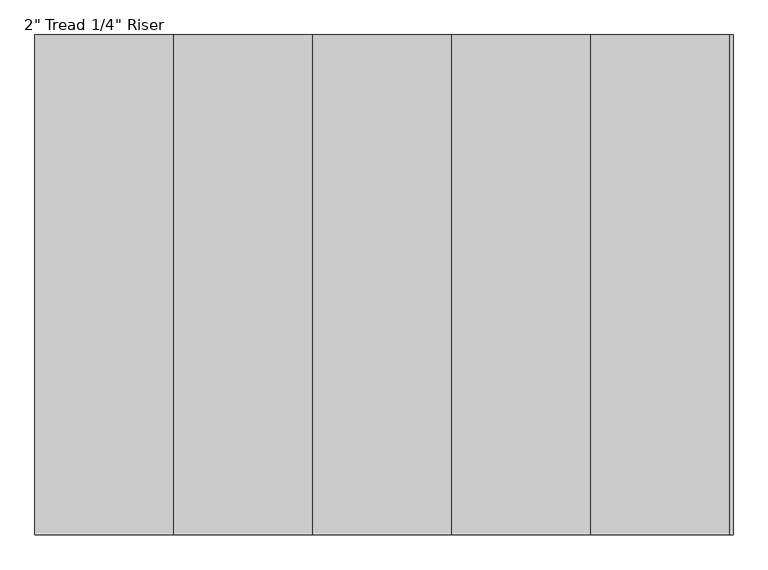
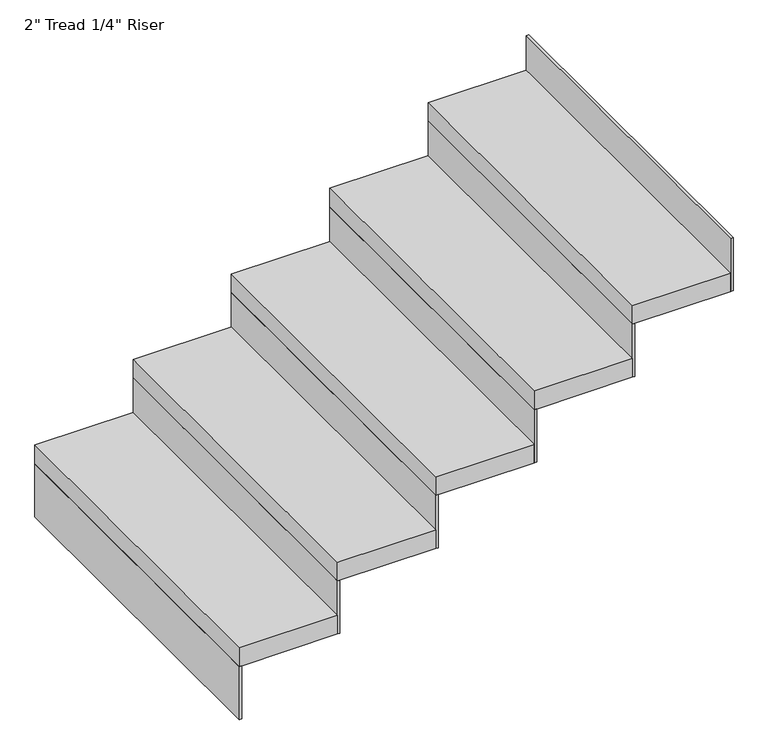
"""IFC4 building model written with IfcOpenShell, lengths in millimetres: stair flight geometry."""

import ifcopenshell
import ifcopenshell.guid

model = None  # the IFC model being written
_history = None  # IfcOwnerHistory: only IFC2X3 demands one
_inside = {}  # id of a spatial element -> (the spatial element, [elements in it])
_under = {}  # id of a project, library or spatial element -> (it, [spatial elements below it])
_declared = {}  # id of a project -> (the project, [libraries it declares])
_typed = {}  # id of a type object -> (the type object, [elements of that type])
_made_of = {}  # id of a material, layer set ... -> (it, [elements and type objects made of it])


def new_model(schema):
    """Start an empty IFC model of exactly this schema.

    Asked for "IFC4X3", IfcOpenShell would pick the latest addendum, in which some entities
    have other attributes; the version numbers below select the first issue.
    IFC2X3 requires an IfcOwnerHistory on every rooted entity: one is made here for all.
    """
    global model, _history
    if schema == "IFC4X3":
        model = ifcopenshell.file(schema_version=(4, 3, 0, 0))
    else:
        model = ifcopenshell.file(schema=schema)
    _inside.clear()
    _under.clear()
    _declared.clear()
    _typed.clear()
    _made_of.clear()
    _history = None
    if model.schema == "IFC2X3":
        org = make("IfcOrganization", Name="unknown")
        user = make(
            "IfcPersonAndOrganization",
            ThePerson=make("IfcPerson", FamilyName="unknown"),
            TheOrganization=org,
        )
        app = make(
            "IfcApplication",
            ApplicationDeveloper=org,
            Version="unknown",
            ApplicationFullName="unknown",
            ApplicationIdentifier="unknown",
        )
        _history = make(
            "IfcOwnerHistory",
            OwningUser=user,
            OwningApplication=app,
            ChangeAction="ADDED",
            CreationDate=0,
        )
    return model


def make(cls, **values):
    """One entity of the class cls with the attributes given. An attribute that is None is left unset."""
    return model.create_entity(
        cls, **{name: value for name, value in values.items() if value is not None}
    )


def rooted(cls, **values):
    """An entity with a GlobalId (a new one), such as an element, a storey or a relation."""
    return make(cls, GlobalId=ifcopenshell.guid.new(), OwnerHistory=_history, **values)


def si_unit(unit_type, name, prefix=None):
    """IfcSIUnit, for example si_unit("LENGTHUNIT", "METRE", prefix="MILLI")."""
    return make("IfcSIUnit", UnitType=unit_type, Prefix=prefix, Name=name)


def assignment(units):
    """IfcUnitAssignment: the units of a project."""
    return None if units is None else make("IfcUnitAssignment", Units=units)


def point(xyz):
    """IfcCartesianPoint."""
    return None if xyz is None else make("IfcCartesianPoint", Coordinates=xyz)


def direction(xyz):
    """IfcDirection."""
    return None if xyz is None else make("IfcDirection", DirectionRatios=xyz)


def frame(location, z_axis=None, x_axis=None):
    """IfcAxis2Placement3D, a coordinate frame: its origin and axes. An axis left out is left unset."""
    return make(
        "IfcAxis2Placement3D",
        Location=point(location),
        Axis=direction(z_axis),
        RefDirection=direction(x_axis),
    )


def origin():
    """The frame at (0, 0, 0) with its axes left unset."""
    return frame((0.0, 0.0, 0.0))


def place(relative_to, where):
    """IfcLocalPlacement: puts the frame where relative to a parent placement (None: the world)."""
    return make(
        "IfcLocalPlacement", PlacementRelTo=relative_to, RelativePlacement=where
    )


def context(
    kind, dimensions, precision=None, world=None, true_north=None, identifier=None
):
    """IfcGeometricRepresentationContext, for example the 3D "Model" context."""
    return make(
        "IfcGeometricRepresentationContext",
        ContextIdentifier=identifier,
        ContextType=kind,
        CoordinateSpaceDimension=dimensions,
        Precision=precision,
        WorldCoordinateSystem=world,
        TrueNorth=true_north,
    )


def project(units=None, contexts=None):
    """IfcProject with its units and contexts."""
    return rooted(
        "IfcProject",
        Name="project",
        RepresentationContexts=contexts,
        UnitsInContext=assignment(units),
    )


def spatial(cls, under=None, at=None, **own):
    """A site, building, storey or space (cls), placed at a placement, below another one or the project."""
    s = rooted(cls, ObjectPlacement=at, **own)
    if under is not None:
        _under.setdefault(under.id(), (under, []))[1].append(s)
    return s


def polyline(points):
    """IfcPolyline through the points."""
    return make("IfcPolyline", Points=[point(p) for p in points])


def outline(outer, holes=None, kind="AREA"):
    """IfcArbitraryClosedProfileDef: a profile drawn as a closed curve; with holes, ...WithVoids."""
    if holes is None:
        return make("IfcArbitraryClosedProfileDef", ProfileType=kind, OuterCurve=outer)
    return make(
        "IfcArbitraryProfileDefWithVoids",
        ProfileType=kind,
        OuterCurve=outer,
        InnerCurves=holes,
    )


def extrude(swept, where, along, depth):
    """IfcExtrudedAreaSolid: the profile swept, set in the frame where, extruded along a direction by depth."""
    return make(
        "IfcExtrudedAreaSolid",
        SweptArea=swept,
        Position=where,
        ExtrudedDirection=direction(along),
        Depth=depth,
    )


def shape(context_of_items, identifier, shape_type, items):
    """IfcShapeRepresentation: the items that make up one representation, for example the "Body"."""
    return make(
        "IfcShapeRepresentation",
        ContextOfItems=context_of_items,
        RepresentationIdentifier=identifier,
        RepresentationType=shape_type,
        Items=items,
    )


def source(mapping_origin, context_of_items, identifier, shape_type, items):
    """IfcRepresentationMap: a shape defined once, which mapped items show again and again."""
    return make(
        "IfcRepresentationMap",
        MappingOrigin=mapping_origin,
        MappedRepresentation=shape(context_of_items, identifier, shape_type, items),
    )


def transform(
    local_origin,
    x_axis=None,
    y_axis=None,
    z_axis=None,
    scale=None,
    scale2=None,
    scale3=None,
    uniform=True,
):
    """IfcCartesianTransformationOperator3D, or its non-uniform kind. x_axis, y_axis, z_axis: its Axis1, 2, 3."""
    if uniform:
        return make(
            "IfcCartesianTransformationOperator3D",
            Axis1=direction(x_axis),
            Axis2=direction(y_axis),
            LocalOrigin=point(local_origin),
            Scale=scale,
            Axis3=direction(z_axis),
        )
    return make(
        "IfcCartesianTransformationOperator3DnonUniform",
        Axis1=direction(x_axis),
        Axis2=direction(y_axis),
        LocalOrigin=point(local_origin),
        Scale=scale,
        Axis3=direction(z_axis),
        Scale2=scale2,
        Scale3=scale3,
    )


def mapped(mapping_source, mapping_target):
    """IfcMappedItem: shows the shape of a source again, moved by a transform."""
    return make(
        "IfcMappedItem", MappingSource=mapping_source, MappingTarget=mapping_target
    )


def made_of(thing, what):
    """Note that an element or type object is made of a material, layer set ...; save() writes the relation."""
    if what is not None:
        _made_of.setdefault(what.id(), (what, []))[1].append(thing)
    return thing


def element(
    cls,
    number,
    at=None,
    inside=None,
    cuts=None,
    type_object=None,
    material=None,
    context=None,
    identifier="Body",
    shape_type=None,
    held_by="IfcProductDefinitionShape",
    body=None,
    shapes=None,
    **own,
):
    """One element of the class cls, such as IfcWall. Its Tag is "e" and its number.

    at: its placement. inside: the storey or other place that contains it. cuts: it is an
    opening in that element (IfcRelVoidsElement). A single representation is given by context,
    identifier, shape_type and body (its items); several are given by shapes. held_by: the class
    of the entity that holds the representations. save() writes the other relations.
    """
    e = rooted(cls, Tag="e%d" % number, ObjectPlacement=at, **own)
    if body is not None:
        shapes = [shape(context, identifier, shape_type, body)]
    if shapes is not None:
        e.Representation = make(held_by, Representations=shapes)
    if inside is not None:
        _inside.setdefault(inside.id(), (inside, []))[1].append(e)
    if cuts is not None:
        rooted(
            "IfcRelVoidsElement", RelatingBuildingElement=cuts, RelatedOpeningElement=e
        )
    if type_object is not None:
        _typed.setdefault(type_object.id(), (type_object, []))[1].append(e)
    return made_of(e, material)


def aggregate(whole, parts):
    """IfcRelAggregates: a whole, such as a stair, and the parts it consists of."""
    return rooted("IfcRelAggregates", RelatingObject=whole, RelatedObjects=parts)


def save(model, path):
    """Write the relations noted so far, then the file.

    IfcRelAggregates (storeys below a building ...), IfcRelContainedInSpatialStructure (elements
    in a storey), IfcRelDefinesByType, IfcRelAssociatesMaterial and IfcRelDeclares: one each for
    every whole, place, type object, material and project.
    """
    for whole, parts in _under.values():
        aggregate(whole, parts)
    for where, things in _inside.values():
        rooted(
            "IfcRelContainedInSpatialStructure",
            RelatedElements=things,
            RelatingStructure=where,
        )
    for kind, things in _typed.values():
        rooted("IfcRelDefinesByType", RelatedObjects=things, RelatingType=kind)
    for what, things in _made_of.values():
        rooted("IfcRelAssociatesMaterial", RelatedObjects=things, RelatingMaterial=what)
    for by, libraries in _declared.values():
        rooted("IfcRelDeclares", RelatingContext=by, RelatedDefinitions=libraries)
    model.write(path)


def stair_flight_d7916bae(model_context):
    return source(origin(), model_context, "Body", "SweptSolid", [
        extrude(outline(polyline([(164309.4120703, 33927.1265585), (164303.0620703, 33927.1265585), (164303.0620703, 34841.5265585), (164309.4120703, 34841.5265585), (164309.4120703, 33927.1265585)])), frame((0.0, 0.0, 2126.3428571), z_axis=(0.0, 0.0, 1.0), x_axis=(1.0, 0.0, 0.0)), (0.0, 0.0, 1.0), 145.1428571),
        extrude(outline(polyline([(164557.0620703, 34841.5265585), (164557.0620703, 33927.1265585), (164303.0620703, 33927.1265585), (164303.0620703, 34841.5265585), (164557.0620703, 34841.5265585)])), frame((0.0, 0.0, 2271.4857143), z_axis=(0.0, 0.0, 1.0), x_axis=(1.0, 0.0, 0.0)), (0.0, 0.0, 1.0), 50.8),
        extrude(outline(polyline([(164563.4120703, 33927.1265585), (164557.0620703, 33927.1265585), (164557.0620703, 34841.5265585), (164563.4120703, 34841.5265585), (164563.4120703, 33927.1265585)])), frame((0.0, 0.0, 2271.4857143), z_axis=(0.0, 0.0, 1.0), x_axis=(1.0, 0.0, 0.0)), (0.0, 0.0, 1.0), 145.1428571),
        extrude(outline(polyline([(164811.0620703, 34841.5265585), (164811.0620703, 33927.1265585), (164557.0620703, 33927.1265585), (164557.0620703, 34841.5265585), (164811.0620703, 34841.5265585)])), frame((0.0, 0.0, 2416.6285714), z_axis=(0.0, 0.0, 1.0), x_axis=(1.0, 0.0, 0.0)), (0.0, 0.0, 1.0), 50.8),
        extrude(outline(polyline([(164817.4120703, 33927.1265585), (164811.0620703, 33927.1265585), (164811.0620703, 34841.5265585), (164817.4120703, 34841.5265585), (164817.4120703, 33927.1265585)])), frame((0.0, 0.0, 2416.6285714), z_axis=(0.0, 0.0, 1.0), x_axis=(1.0, 0.0, 0.0)), (0.0, 0.0, 1.0), 145.1428571),
        extrude(outline(polyline([(165065.0620703, 34841.5265585), (165065.0620703, 33927.1265585), (164811.0620703, 33927.1265585), (164811.0620703, 34841.5265585), (165065.0620703, 34841.5265585)])), frame((0.0, 0.0, 2561.7714286), z_axis=(0.0, 0.0, 1.0), x_axis=(1.0, 0.0, 0.0)), (0.0, 0.0, 1.0), 50.8),
        extrude(outline(polyline([(165071.4120703, 33927.1265585), (165065.0620703, 33927.1265585), (165065.0620703, 34841.5265585), (165071.4120703, 34841.5265585), (165071.4120703, 33927.1265585)])), frame((0.0, 0.0, 2561.7714286), z_axis=(0.0, 0.0, 1.0), x_axis=(1.0, 0.0, 0.0)), (0.0, 0.0, 1.0), 145.1428571),
        extrude(outline(polyline([(165319.0620703, 34841.5265585), (165319.0620703, 33927.1265585), (165065.0620703, 33927.1265585), (165065.0620703, 34841.5265585), (165319.0620703, 34841.5265585)])), frame((0.0, 0.0, 2706.9142857), z_axis=(0.0, 0.0, 1.0), x_axis=(1.0, 0.0, 0.0)), (0.0, 0.0, 1.0), 50.8),
        extrude(outline(polyline([(165325.4120703, 33927.1265585), (165319.0620703, 33927.1265585), (165319.0620703, 34841.5265585), (165325.4120703, 34841.5265585), (165325.4120703, 33927.1265585)])), frame((0.0, 0.0, 2706.9142857), z_axis=(0.0, 0.0, 1.0), x_axis=(1.0, 0.0, 0.0)), (0.0, 0.0, 1.0), 145.1428571),
        extrude(outline(polyline([(165579.4120703, 33927.1265585), (165573.0620703, 33927.1265585), (165573.0620703, 34841.5265585), (165579.4120703, 34841.5265585), (165579.4120703, 33927.1265585)])), frame((0.0, 0.0, 2852.0571429), z_axis=(0.0, 0.0, 1.0), x_axis=(1.0, 0.0, 0.0)), (0.0, 0.0, 1.0), 145.1428571),
        extrude(outline(polyline([(165573.0620703, 34841.5265585), (165573.0620703, 33927.1265585), (165319.0620703, 33927.1265585), (165319.0620703, 34841.5265585), (165573.0620703, 34841.5265585)])), frame((0.0, 0.0, 2852.0571429), z_axis=(0.0, 0.0, 1.0), x_axis=(1.0, 0.0, 0.0)), (0.0, 0.0, 1.0), 50.8),
    ])


if __name__ == "__main__":
    model = new_model("IFC4")
    model_context = context("Model", 3, world=origin())
    ifc_project = project(units=[si_unit("LENGTHUNIT", "METRE", prefix="MILLI")], contexts=[model_context])
    site = spatial("IfcSite", under=ifc_project)
    building = spatial("IfcBuilding", under=site)
    placement = place(None, origin())
    stair_flight_shape = stair_flight_d7916bae(model_context)
    element("IfcStairFlight", 1, ObjectType="2\" Tread 1/4\" Riser", at=placement, inside=building, context=model_context, shape_type="MappedRepresentation", body=[
        mapped(stair_flight_shape, transform((0.0, 0.0, 0.0), x_axis=(1.0, 0.0, 0.0), y_axis=(0.0, 1.0, 0.0), z_axis=(0.0, 0.0, 1.0))),
    ])
    save(model, "model.ifc")
